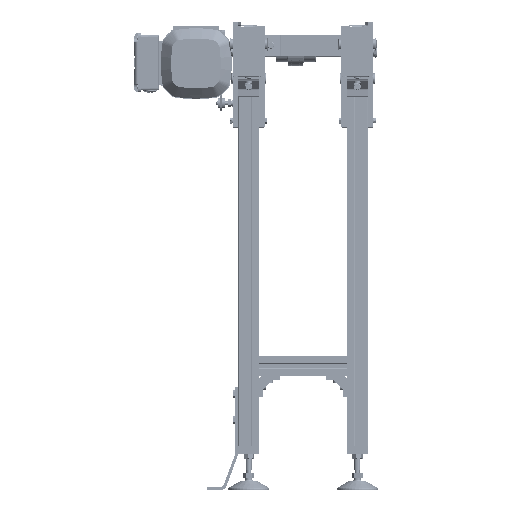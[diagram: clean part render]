
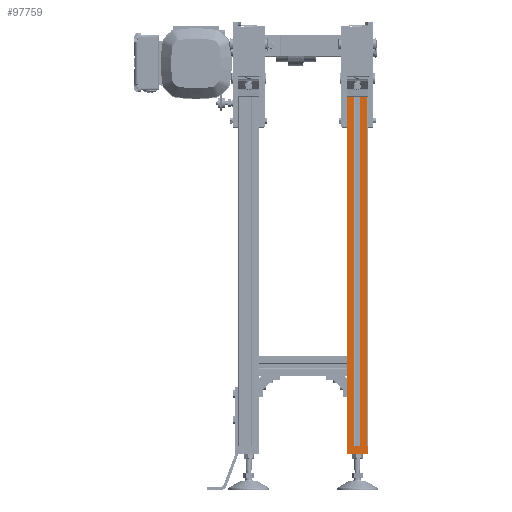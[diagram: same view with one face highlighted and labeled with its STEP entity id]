
A CAD part, left-side view. The second image highlights one B-rep face of the part: STEP entity #97759.
In plain terms, the highlighted planar face has unit normal (-1, 0, 0).
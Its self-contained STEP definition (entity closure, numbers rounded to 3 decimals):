
#9815=FACE_OUTER_BOUND('',#15540,.T.);
#15540=EDGE_LOOP('',(#69009,#69010,#69011,#69012,#69013,#69014,#69015,#69016,
#69017,#69018,#69019,#69020));
#22904=LINE('',#148373,#31682);
#23033=LINE('',#148980,#31811);
#23034=LINE('',#148981,#31812);
#23038=LINE('',#148988,#31816);
#23039=LINE('',#148989,#31817);
#23040=LINE('',#148991,#31818);
#23041=LINE('',#148993,#31819);
#23042=LINE('',#148995,#31820);
#23043=LINE('',#148996,#31821);
#23044=LINE('',#148998,#31822);
#23045=LINE('',#149000,#31823);
#23046=LINE('',#149001,#31824);
#31682=VECTOR('',#119559,15.);
#31811=VECTOR('',#119934,13.45);
#31812=VECTOR('',#119935,13.45);
#31816=VECTOR('',#119943,675.);
#31817=VECTOR('',#119944,1.);
#31818=VECTOR('',#119945,40.);
#31819=VECTOR('',#119946,15.);
#31820=VECTOR('',#119947,1.);
#31821=VECTOR('',#119948,675.);
#31822=VECTOR('',#119949,675.);
#31823=VECTOR('',#119950,11.1);
#31824=VECTOR('',#119951,675.);
#40575=VERTEX_POINT('',#148370);
#40576=VERTEX_POINT('',#148372);
#40666=VERTEX_POINT('',#148736);
#40669=VERTEX_POINT('',#148741);
#40671=VERTEX_POINT('',#148747);
#40675=VERTEX_POINT('',#148756);
#40716=VERTEX_POINT('',#148987);
#40717=VERTEX_POINT('',#148990);
#40718=VERTEX_POINT('',#148992);
#40719=VERTEX_POINT('',#148994);
#40720=VERTEX_POINT('',#148997);
#40721=VERTEX_POINT('',#148999);
#51075=EDGE_CURVE('',#40576,#40575,#22904,.T.);
#51270=EDGE_CURVE('',#40666,#40671,#23033,.T.);
#51271=EDGE_CURVE('',#40675,#40669,#23034,.T.);
#51275=EDGE_CURVE('',#40716,#40671,#23038,.T.);
#51276=EDGE_CURVE('',#40716,#40576,#23039,.T.);
#51277=EDGE_CURVE('',#40575,#40717,#23040,.T.);
#51278=EDGE_CURVE('',#40718,#40717,#23041,.T.);
#51279=EDGE_CURVE('',#40718,#40719,#23042,.T.);
#51280=EDGE_CURVE('',#40719,#40675,#23043,.T.);
#51281=EDGE_CURVE('',#40720,#40669,#23044,.T.);
#51282=EDGE_CURVE('',#40720,#40721,#23045,.T.);
#51283=EDGE_CURVE('',#40721,#40666,#23046,.T.);
#69009=ORIENTED_EDGE('',*,*,#51270,.T.);
#69010=ORIENTED_EDGE('',*,*,#51275,.F.);
#69011=ORIENTED_EDGE('',*,*,#51276,.T.);
#69012=ORIENTED_EDGE('',*,*,#51075,.T.);
#69013=ORIENTED_EDGE('',*,*,#51277,.T.);
#69014=ORIENTED_EDGE('',*,*,#51278,.F.);
#69015=ORIENTED_EDGE('',*,*,#51279,.T.);
#69016=ORIENTED_EDGE('',*,*,#51280,.T.);
#69017=ORIENTED_EDGE('',*,*,#51271,.T.);
#69018=ORIENTED_EDGE('',*,*,#51281,.F.);
#69019=ORIENTED_EDGE('',*,*,#51282,.T.);
#69020=ORIENTED_EDGE('',*,*,#51283,.T.);
#88540=PLANE('',#104503);
#97759=ADVANCED_FACE('',(#9815),#88540,.T.);
#104503=AXIS2_PLACEMENT_3D('',#148986,#119941,#119942);
#119559=DIRECTION('',(0.,0.,-1.));
#119934=DIRECTION('',(0.,1.,0.));
#119935=DIRECTION('',(0.,1.,0.));
#119941=DIRECTION('center_axis',(-1.,0.,0.));
#119942=DIRECTION('ref_axis',(0.,-1.,0.));
#119943=DIRECTION('',(0.,0.,1.));
#119944=DIRECTION('',(0.,1.,0.));
#119945=DIRECTION('',(0.,-1.,0.));
#119946=DIRECTION('',(0.,0.,-1.));
#119947=DIRECTION('',(0.,1.,0.));
#119948=DIRECTION('',(0.,0.,1.));
#119949=DIRECTION('',(0.,0.,1.));
#119950=DIRECTION('',(0.,1.,0.));
#119951=DIRECTION('',(0.,0.,1.));
#148370=CARTESIAN_POINT('',(203.,-85.,-730.));
#148372=CARTESIAN_POINT('',(203.,-85.,-715.));
#148373=CARTESIAN_POINT('',(203.,-85.,-715.));
#148736=CARTESIAN_POINT('',(203.,-99.45,-40.));
#148741=CARTESIAN_POINT('',(203.,-110.55,-40.));
#148747=CARTESIAN_POINT('',(203.,-86.,-40.));
#148756=CARTESIAN_POINT('',(203.,-124.,-40.));
#148980=CARTESIAN_POINT('',(203.,-95.5,-40.));
#148981=CARTESIAN_POINT('',(203.,-95.5,-40.));
#148986=CARTESIAN_POINT('Origin',(203.,-86.,-715.));
#148987=CARTESIAN_POINT('',(203.,-86.,-715.));
#148988=CARTESIAN_POINT('',(203.,-86.,-715.));
#148989=CARTESIAN_POINT('',(203.,-125.,-715.));
#148990=CARTESIAN_POINT('',(203.,-125.,-730.));
#148991=CARTESIAN_POINT('',(203.,-125.,-730.));
#148992=CARTESIAN_POINT('',(203.,-125.,-715.));
#148993=CARTESIAN_POINT('',(203.,-125.,-715.));
#148994=CARTESIAN_POINT('',(203.,-124.,-715.));
#148995=CARTESIAN_POINT('',(203.,-125.,-715.));
#148996=CARTESIAN_POINT('',(203.,-124.,-715.));
#148997=CARTESIAN_POINT('',(203.,-110.55,-715.));
#148998=CARTESIAN_POINT('',(203.,-110.55,-715.));
#148999=CARTESIAN_POINT('',(203.,-99.45,-715.));
#149000=CARTESIAN_POINT('',(203.,-125.,-715.));
#149001=CARTESIAN_POINT('',(203.,-99.45,-715.));
